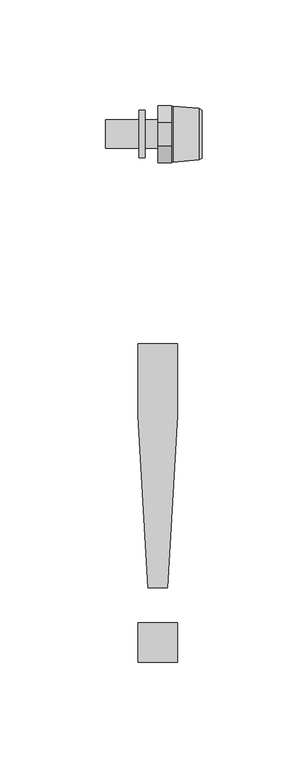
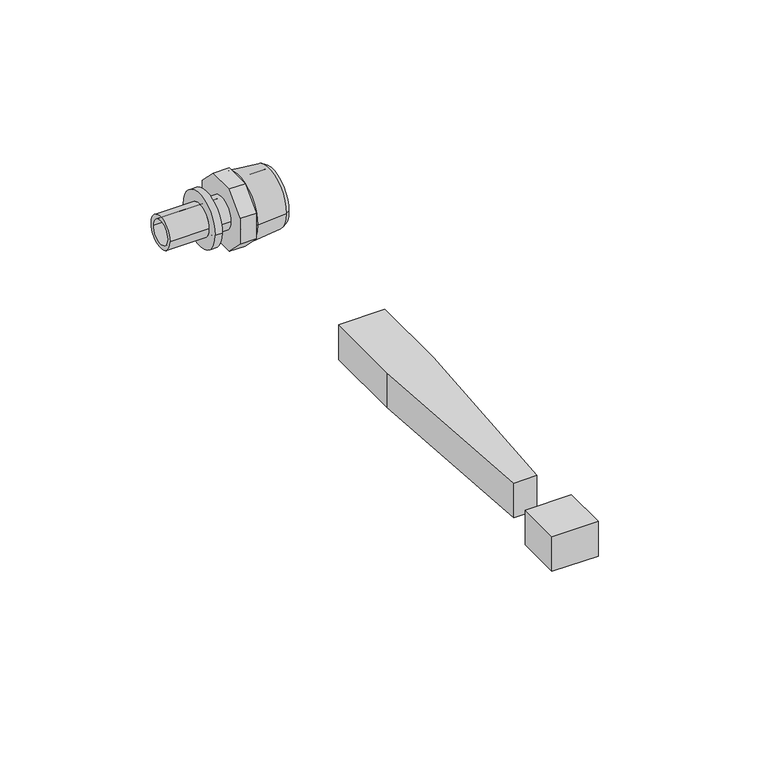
"""IFC4 building model written with IfcOpenShell, lengths in millimetres: pipe fitting geometry, RAUTITAN_Adapter_external_thread LX+G_LX : RTI A external LX+G_LX DE."""

from ifc_helpers import new_model, si_unit, frame, origin, origin_with_axes, place, context, project, spatial, polyline, circle_curve, outline, extrude, source, transform, mapped, element, save
from ifc_brep_helpers import plane_surface, cylinder_surface, revolved_surface, advanced_brep


def pipe_fitting_282130cf(model_context):
    return source(origin(), model_context, "Body", "SolidModel", [
        extrude(outline(polyline([(-4.7088895, -214.6833285), (-9.4177791, -133.3446193), (-9.4177791, -99.3155348), (9.4177791, -99.3155348), (9.4177791, -133.3446193), (4.7088895, -214.6833285), (-4.7088895, -214.6833285)])), origin_with_axes(), (0.0, 0.0, 1.0), 15.0),
        extrude(outline(polyline([(-9.4177791, -250.0), (-9.4177791, -231.1644418), (9.4177791, -231.1644418), (9.4177791, -250.0), (-9.4177791, -250.0)])), origin_with_axes(), (0.0, 0.0, 1.0), 15.0),
        advanced_brep(
        [(-8.97, 6.725, 0.0), (-8.97, -6.725, 0.0), (-24.8, -6.725, 0.0), (-24.8, 6.725, 0.0), (-6.1, 11.25, 0.0), (-6.1, -11.25, 0.0), (-8.97, -11.25, 0.0), (-8.97, 11.25, 0.0), (-24.8, 4.95, 0.0), (-24.8, -4.95, 0.0), (0.0, -4.95, 0.0), (0.0, 4.95, 0.0), (0.0, 6.725, 0.0), (0.0, -6.725, 0.0), (-6.1, -6.725, 0.0), (-6.1, 6.725, 0.0)],
        [
            (0, 1, circle_curve(frame((-8.97, 0.0, 0.0), z_axis=(-1.0, 0.0, 0.0), x_axis=(0.0, -1.0, 0.0)), 6.725)),
            (1, 2),
            (2, 3, circle_curve(frame((-24.8, 0.0, 0.0), z_axis=(1.0, 0.0, 0.0), x_axis=(0.0, -1.0, 0.0)), 6.725)),
            (3, 0),
            (4, 5, circle_curve(frame((-6.1, 0.0, 0.0), z_axis=(-1.0, 0.0, 0.0), x_axis=(0.0, -1.0, 0.0)), 11.25)),
            (5, 6),
            (6, 7, circle_curve(frame((-8.97, 0.0, 0.0), z_axis=(1.0, 0.0, 0.0), x_axis=(0.0, -1.0, 0.0)), 11.25)),
            (7, 4),
            (8, 9, circle_curve(frame((-24.8, 0.0, 0.0), z_axis=(-1.0, 0.0, 0.0), x_axis=(0.0, -1.0, 0.0)), 4.95)),
            (9, 10),
            (10, 11, circle_curve(frame((0.0, 0.0, 0.0), z_axis=(1.0, 0.0, 0.0), x_axis=(0.0, -1.0, 0.0)), 4.95)),
            (11, 8),
            (2, 3, circle_curve(frame((-24.8, 0.0, 0.0), z_axis=(-1.0, 0.0, 0.0), x_axis=(0.0, 1.0, 0.0)), 6.725)),
            (8, 9, circle_curve(frame((-24.8, 0.0, 0.0), z_axis=(1.0, 0.0, 0.0), x_axis=(0.0, 1.0, 0.0)), 4.95)),
            (1, 0, circle_curve(frame((-8.97, 0.0, 0.0), z_axis=(-1.0, 0.0, 0.0), x_axis=(0.0, 1.0, 0.0)), 6.725)),
            (6, 7, circle_curve(frame((-8.97, 0.0, 0.0), z_axis=(-1.0, 0.0, 0.0), x_axis=(0.0, 1.0, 0.0)), 11.25)),
            (5, 4, circle_curve(frame((-6.1, 0.0, 0.0), z_axis=(-1.0, 0.0, 0.0), x_axis=(0.0, 1.0, 0.0)), 11.25)),
            (12, 13, circle_curve(frame((0.0, 0.0, 0.0), z_axis=(1.0, 0.0, 0.0), x_axis=(0.0, 1.0, 0.0)), 6.725)),
            (13, 12, circle_curve(frame((0.0, 0.0, 0.0), z_axis=(1.0, 0.0, 0.0), x_axis=(0.0, -1.0, 0.0)), 6.725)),
            (10, 11, circle_curve(frame((0.0, 0.0, 0.0), z_axis=(-1.0, 0.0, 0.0), x_axis=(0.0, 1.0, 0.0)), 4.95)),
            (13, 14),
            (14, 15, circle_curve(frame((-6.1, 0.0, 0.0), z_axis=(1.0, 0.0, 0.0), x_axis=(0.0, -1.0, 0.0)), 6.725)),
            (15, 12),
            (14, 15, circle_curve(frame((-6.1, 0.0, 0.0), z_axis=(-1.0, 0.0, 0.0), x_axis=(0.0, 1.0, 0.0)), 6.725)),
        ],
        [
            cylinder_surface(frame((0.0, 0.0, 0.0), z_axis=(1.0, 0.0, 0.0), x_axis=(0.0, -1.0, 0.0)), 6.725),
            cylinder_surface(frame((0.0, 0.0, 0.0), z_axis=(1.0, 0.0, 0.0), x_axis=(0.0, -1.0, 0.0)), 11.25),
            revolved_surface(polyline([(0.0, -4.95, 0.0), (-24.8, -4.95, 0.0)]), (0.0, 0.0, 0.0), (1.0, 0.0, 0.0)),
            plane_surface(frame((-24.8, 0.0, 0.0), z_axis=(-1.0, 0.0, 0.0), x_axis=(0.0, 1.0, 0.0))),
            cylinder_surface(frame((0.0, 0.0, 0.0), z_axis=(1.0, 0.0, 0.0), x_axis=(0.0, 1.0, 0.0)), 6.725),
            plane_surface(frame((-8.97, 0.0, 0.0), z_axis=(-1.0, 0.0, 0.0), x_axis=(0.0, 1.0, 0.0))),
            cylinder_surface(frame((0.0, 0.0, 0.0), z_axis=(1.0, 0.0, 0.0), x_axis=(0.0, 1.0, 0.0)), 11.25),
            plane_surface(frame((0.0, 0.0, 0.0), z_axis=(1.0, 0.0, 0.0), x_axis=(0.0, 1.0, 0.0))),
            revolved_surface(polyline([(0.0, 4.95, 0.0), (-24.8, 4.95, 0.0)]), (0.0, 0.0, 0.0), (1.0, 0.0, 0.0)),
            plane_surface(frame((-6.1, 0.0, 0.0), z_axis=(1.0, 0.0, 0.0), x_axis=(0.0, 1.0, 0.0))),
        ],
        [
            (0, [[1, 2, 3, 4]]),
            (1, [[5, 6, 7, 8]]),
            (2, [[9, 10, 11, 12]]),
            (3, [[13, -3], [14, -9]]),
            (4, [[15, -4, -13, -2]]),
            (5, [[16, -7], [-15, -1]]),
            (6, [[17, -8, -16, -6]]),
            (7, [[18, 19], [20, -11]]),
            (8, [[-14, -12, -20, -10]]),
            (0, [[-19, 21, 22, 23]]),
            (9, [[-17, -5], [24, -22]]),
            (4, [[-18, -23, -24, -21]]),
        ],
    ),
        advanced_brep(
        [(7.6032803, 9.5, 0.0), (7.6032803, -9.5, 0.0), (21.0, -9.5, 0.0), (21.0, 9.5, 0.0), (6.5, 8.3967197, 0.0), (6.5, -8.3967197, 0.0), (7.2406902, 13.29, 0.0), (7.2406902, -13.29, 0.0), (6.5, -12.7, 0.0), (6.5, 12.7, 0.0), (19.5000007, 12.16, 0.0), (19.5000007, -12.16, 0.0), (21.0, 11.425, 0.0), (21.0, -11.425, 0.0)],
        [
            (0, 1, circle_curve(frame((7.6032803, 0.0, 0.0), z_axis=(-1.0, 0.0, 0.0), x_axis=(0.0, -1.0, 0.0)), 9.5)),
            (1, 2),
            (2, 3, circle_curve(frame((21.0, 0.0, 0.0), z_axis=(1.0, 0.0, 0.0), x_axis=(0.0, -1.0, 0.0)), 9.5)),
            (3, 0),
            (4, 5, circle_curve(frame((6.5, 0.0, 0.0), z_axis=(-1.0, 0.0, 0.0), x_axis=(0.0, -1.0, 0.0)), 8.3967197)),
            (5, 1),
            (0, 4),
            (6, 7, circle_curve(frame((7.2406902, 0.0, 0.0), z_axis=(-1.0, 0.0, 0.0), x_axis=(0.0, -1.0, 0.0)), 13.29)),
            (7, 8),
            (8, 9, circle_curve(frame((6.5, 0.0, 0.0), z_axis=(1.0, 0.0, 0.0), x_axis=(0.0, -1.0, 0.0)), 12.7)),
            (9, 6),
            (10, 11, circle_curve(frame((19.5000007, 0.0, 0.0), z_axis=(-1.0, 0.0, 0.0), x_axis=(0.0, -1.0, 0.0)), 12.16)),
            (11, 7),
            (6, 10),
            (12, 13, circle_curve(frame((21.0, 0.0, 0.0), z_axis=(-1.0, 0.0, 0.0), x_axis=(0.0, -1.0, 0.0)), 11.425)),
            (13, 11),
            (10, 12),
            (1, 0, circle_curve(frame((7.6032803, 0.0, 0.0), z_axis=(-1.0, 0.0, 0.0), x_axis=(0.0, 1.0, 0.0)), 9.5)),
            (3, 2, circle_curve(frame((21.0, 0.0, 0.0), z_axis=(1.0, 0.0, 0.0), x_axis=(0.0, 1.0, 0.0)), 9.5)),
            (5, 4, circle_curve(frame((6.5, 0.0, 0.0), z_axis=(-1.0, 0.0, 0.0), x_axis=(0.0, 1.0, 0.0)), 8.3967197)),
            (8, 9, circle_curve(frame((6.5, 0.0, 0.0), z_axis=(-1.0, 0.0, 0.0), x_axis=(0.0, 1.0, 0.0)), 12.7)),
            (7, 6, circle_curve(frame((7.2406902, 0.0, 0.0), z_axis=(-1.0, 0.0, 0.0), x_axis=(0.0, 1.0, 0.0)), 13.29)),
            (11, 10, circle_curve(frame((19.5000007, 0.0, 0.0), z_axis=(-1.0, 0.0, 0.0), x_axis=(0.0, 1.0, 0.0)), 12.16)),
            (13, 12, circle_curve(frame((21.0, 0.0, 0.0), z_axis=(-1.0, 0.0, 0.0), x_axis=(0.0, 1.0, 0.0)), 11.425)),
        ],
        [
            revolved_surface(polyline([(21.0, -9.5, 0.0), (7.6032803, -9.5, 0.0)]), (0.0, 0.0, 0.0), (1.0, 0.0, 0.0)),
            revolved_surface(polyline([(7.6032803, -9.5, 0.0), (6.5, -8.3967197, 0.0)]), (0.0, 0.0, 0.0), (1.0, 0.0, 0.0)),
            revolved_surface(polyline([(6.5, -12.7, 0.0), (7.2406902, -13.29, 0.0)]), (0.0, 0.0, 0.0), (1.0, 0.0, 0.0)),
            revolved_surface(polyline([(7.2406902, -13.29, 0.0), (19.5000007, -12.16, 0.0)]), (0.0, 0.0, 0.0), (1.0, 0.0, 0.0)),
            revolved_surface(polyline([(19.5000007, -12.16, 0.0), (21.0, -11.425, 0.0)]), (0.0, 0.0, 0.0), (1.0, 0.0, 0.0)),
            revolved_surface(polyline([(21.0, 9.5, 0.0), (7.6032803, 9.5, 0.0)]), (0.0, 0.0, 0.0), (1.0, 0.0, 0.0)),
            revolved_surface(polyline([(7.6032803, 9.5, 0.0), (6.5, 8.3967197, 0.0)]), (0.0, 0.0, 0.0), (1.0, 0.0, 0.0)),
            plane_surface(frame((6.5, 0.0, 0.0), z_axis=(-1.0, 0.0, 0.0), x_axis=(0.0, 1.0, 0.0))),
            revolved_surface(polyline([(6.5, 12.7, 0.0), (7.2406902, 13.29, 0.0)]), (0.0, 0.0, 0.0), (1.0, 0.0, 0.0)),
            revolved_surface(polyline([(7.2406902, 13.29, 0.0), (19.5000007, 12.16, 0.0)]), (0.0, 0.0, 0.0), (1.0, 0.0, 0.0)),
            revolved_surface(polyline([(19.5000007, 12.16, 0.0), (21.0, 11.425, 0.0)]), (0.0, 0.0, 0.0), (1.0, 0.0, 0.0)),
            plane_surface(frame((21.0, 0.0, 0.0), z_axis=(1.0, 0.0, 0.0), x_axis=(0.0, 1.0, 0.0))),
        ],
        [
            (0, [[1, 2, 3, 4]]),
            (1, [[5, 6, -1, 7]]),
            (2, [[8, 9, 10, 11]]),
            (3, [[12, 13, -8, 14]]),
            (4, [[15, 16, -12, 17]]),
            (5, [[18, -4, 19, -2]]),
            (6, [[20, -7, -18, -6]]),
            (7, [[21, -10], [-20, -5]]),
            (8, [[22, -11, -21, -9]]),
            (9, [[23, -14, -22, -13]]),
            (10, [[24, -17, -23, -16]]),
            (11, [[-24, -15], [-19, -3]]),
        ],
    ),
        extrude(outline(polyline([(-13.5, 5.5918831), (-5.5918831, 13.5), (5.5918831, 13.5), (13.5, 5.5918831), (13.5, -5.5918831), (5.5918831, -13.5), (-5.5918831, -13.5), (-13.5, -5.5918831), (-13.5, 5.5918831)])), frame((0.0, 0.0, 0.0), z_axis=(1.0, 0.0, 0.0), x_axis=(0.0, 1.0, 0.0)), (0.0, 0.0, 1.0), 6.5),
    ])


if __name__ == "__main__":
    model = new_model("IFC4")
    model_context = context("Model", 3, world=origin())
    ifc_project = project(units=[si_unit("LENGTHUNIT", "METRE", prefix="MILLI")], contexts=[model_context])
    site = spatial("IfcSite", under=ifc_project)
    building = spatial("IfcBuilding", under=site)
    placement = place(None, origin())
    pipe_fitting_shape = pipe_fitting_282130cf(model_context)
    element("IfcPipeFitting", 1, ObjectType="RAUTITAN_Adapter_external_thread LX+G_LX : RTI A external LX+G_LX DE", at=placement, inside=building, context=model_context, shape_type="MappedRepresentation", body=[
        mapped(pipe_fitting_shape, transform((0.0, 0.0, 0.0), x_axis=(1.0, 0.0, 0.0), y_axis=(0.0, 1.0, 0.0), z_axis=(0.0, 0.0, 1.0))),
    ])
    save(model, "model.ifc")
